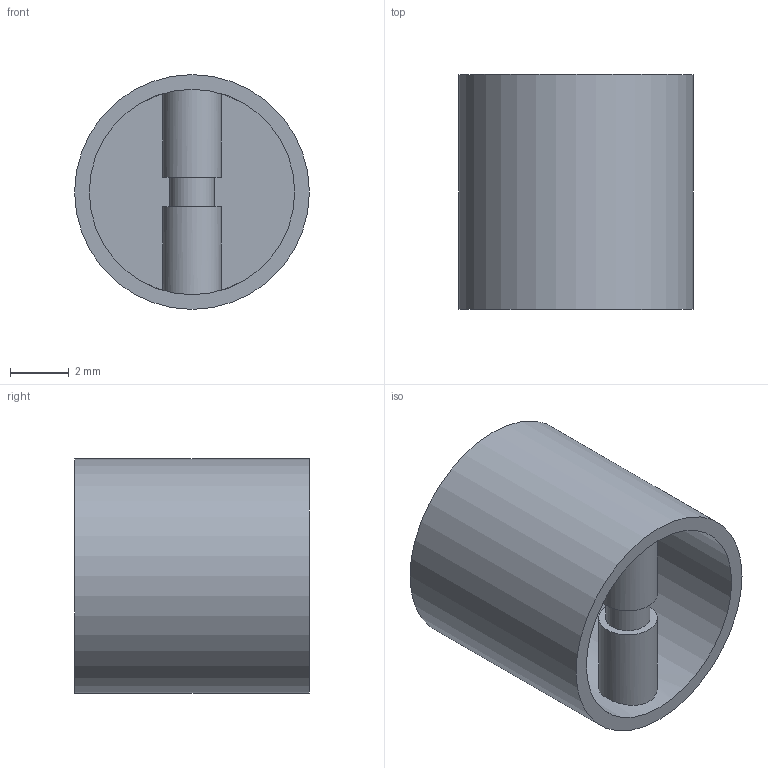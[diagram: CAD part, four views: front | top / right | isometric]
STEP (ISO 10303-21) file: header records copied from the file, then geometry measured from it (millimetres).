
FILE_DESCRIPTION(/* description */ (''),/* implementation_level */ '2;1');
FILE_NAME(/* name */ 'C:\Users\user\Desktop\Motor 1 cilindro\Pistón.stp',/* time_stamp */ '2021-08-16T19:47:18-05:00',/* author */ ('user'),/* organization */ (''),/* preprocessor_version */ 'ST-DEVELOPER v18.1',/* originating_system */ 'Autodesk Inventor 2022',/* authorisation */ '');
FILE_SCHEMA (('AUTOMOTIVE_DESIGN { 1 0 10303 214 3 1 1 }'));
Length unit declared in the file: millimetre
Products named in the file (1): Pistón
Bounding box: 8 x 8 x 8 mm (x, y, z)
Volume: 133.9 mm3; surface area: 504.4 mm2
Topology: 1 solids, 1 shells, 10 faces, 18 edges, 12 vertices
Faces by surface type: plane 5, cylinder 5
Full cylindrical faces by diameter (mm): 1.5 x1, 2 x2, 7 x1, 8 x1
Entity records: 355 total; most frequent: CARTESIAN_POINT 109, DIRECTION 44, ORIENTED_EDGE 36, AXIS2_PLACEMENT_3D 19, EDGE_CURVE 18, EDGE_LOOP 14, VERTEX_POINT 12, FACE_OUTER_BOUND 10
